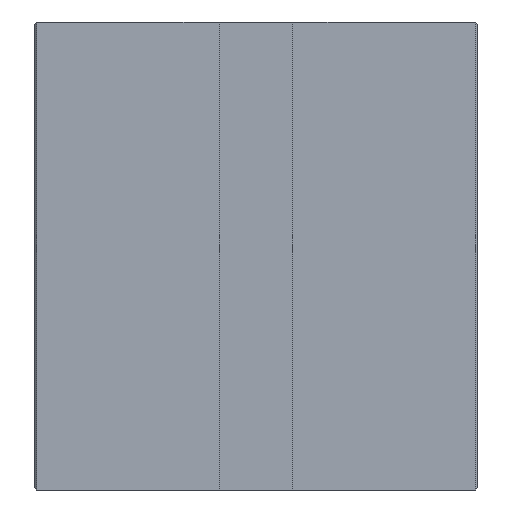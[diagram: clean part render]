
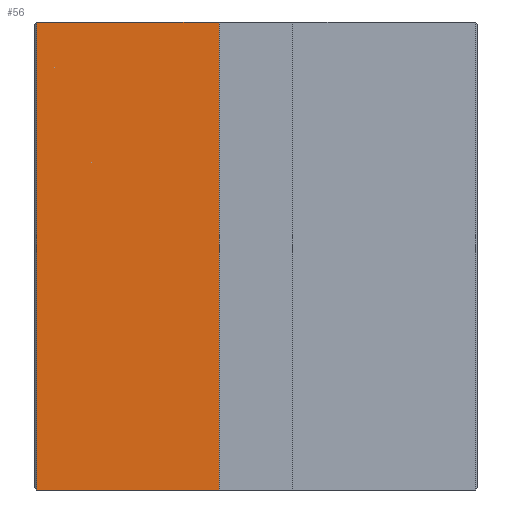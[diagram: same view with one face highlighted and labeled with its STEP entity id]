
A CAD part, front view. The second image highlights one B-rep face of the part: STEP entity #56.
In plain terms, the highlighted planar face has unit normal (0, -1, 0).
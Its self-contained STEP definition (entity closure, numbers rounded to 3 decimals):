
#32 = LINE ( 'NONE', #481, #480 ) ;
#56 = ADVANCED_FACE ( 'NONE', ( #142 ), #141, .F. ) ;
#57 = EDGE_LOOP ( 'NONE', ( #58, #61, #64, #66 ) ) ;
#58 = ORIENTED_EDGE ( 'NONE', *, *, #59, .F. ) ;
#59 = EDGE_CURVE ( 'NONE', #60, #118, #136, .T. ) ;
#60 = VERTEX_POINT ( 'NONE', #385 ) ;
#61 = ORIENTED_EDGE ( 'NONE', *, *, #62, .T. ) ;
#62 = EDGE_CURVE ( 'NONE', #60, #63, #384, .T. ) ;
#63 = VERTEX_POINT ( 'NONE', #380 ) ;
#64 = ORIENTED_EDGE ( 'NONE', *, *, #65, .T. ) ;
#65 = EDGE_CURVE ( 'NONE', #63, #111, #379, .T. ) ;
#66 = ORIENTED_EDGE ( 'NONE', *, *, #120, .F. ) ;
#111 = VERTEX_POINT ( 'NONE', #242 ) ;
#118 = VERTEX_POINT ( 'NONE', #231 ) ;
#120 = EDGE_CURVE ( 'NONE', #118, #111, #32, .T. ) ;
#133 = DIRECTION ( 'NONE',  ( 1., 0., 0. ) ) ;
#134 = VECTOR ( 'NONE', #133, 1000. ) ;
#135 = CARTESIAN_POINT ( 'NONE',  ( -45., 5., 95. ) ) ;
#136 = LINE ( 'NONE', #135, #134 ) ;
#137 = DIRECTION ( 'NONE',  ( -1., 0., 0. ) ) ;
#138 = DIRECTION ( 'NONE',  ( 0., 1., 0. ) ) ;
#139 = CARTESIAN_POINT ( 'NONE',  ( -45., 5., 95. ) ) ;
#140 = AXIS2_PLACEMENT_3D ( 'NONE', #139, #138, #137 ) ;
#141 = PLANE ( 'NONE',  #140 ) ;
#142 = FACE_OUTER_BOUND ( 'NONE', #57, .T. ) ;
#231 = CARTESIAN_POINT ( 'NONE',  ( -7.5, 5., 95. ) ) ;
#242 = CARTESIAN_POINT ( 'NONE',  ( -7.5, 5., 0. ) ) ;
#376 = DIRECTION ( 'NONE',  ( 1., 0., 0. ) ) ;
#377 = VECTOR ( 'NONE', #376, 1000. ) ;
#378 = CARTESIAN_POINT ( 'NONE',  ( -45., 5., 0. ) ) ;
#379 = LINE ( 'NONE', #378, #377 ) ;
#380 = CARTESIAN_POINT ( 'NONE',  ( -44.5, 5., 0. ) ) ;
#381 = DIRECTION ( 'NONE',  ( 0., 0., -1. ) ) ;
#382 = VECTOR ( 'NONE', #381, 1000. ) ;
#383 = CARTESIAN_POINT ( 'NONE',  ( -44.5, 5., 95. ) ) ;
#384 = LINE ( 'NONE', #383, #382 ) ;
#385 = CARTESIAN_POINT ( 'NONE',  ( -44.5, 5., 95. ) ) ;
#389 = DIRECTION ( 'NONE',  ( 0., 0., -1. ) ) ;
#480 = VECTOR ( 'NONE', #389, 1000. ) ;
#481 = CARTESIAN_POINT ( 'NONE',  ( -7.5, 5., 95. ) ) ;
